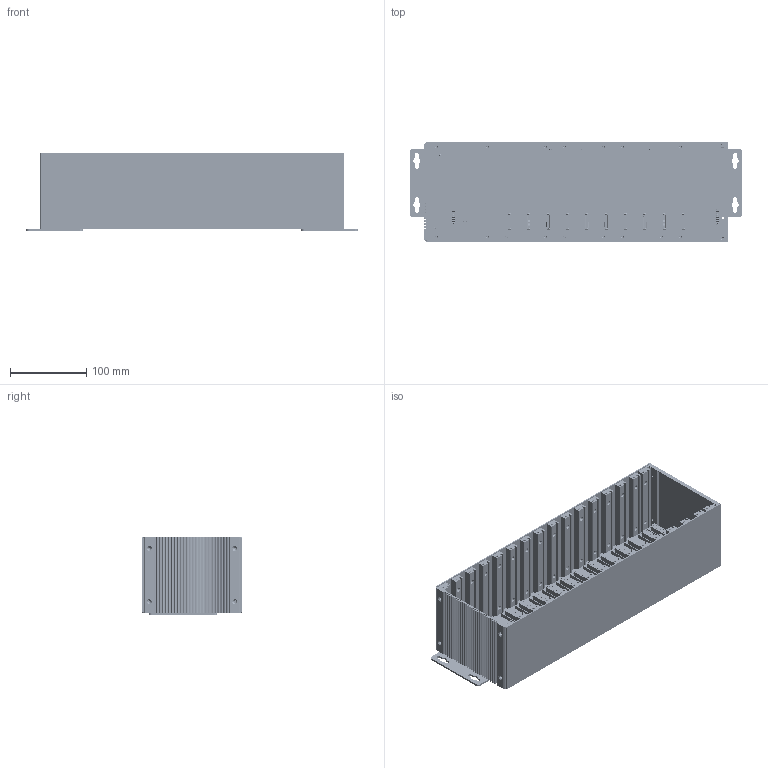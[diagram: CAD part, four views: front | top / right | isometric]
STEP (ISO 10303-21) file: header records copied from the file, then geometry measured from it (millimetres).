
FILE_DESCRIPTION((''),'2;1');
FILE_NAME('IOPAC_8600-12S_ASM','2018-03-05T',('BensonYC_Lee'),('PTC'),'PRO/ENGINEER BY PARAMETRIC TECHNOLOGY CORPORATION, 2017170','PRO/ENGINEER BY PARAMETRIC TECHNOLOGY CORPORATION, 2017170','');
FILE_SCHEMA(('AUTOMOTIVE_DESIGN { 1 0 10303 214 1 1 1 1 }'));
Products named in the file (16): PCB-BACKPLANE-8600-12S; ERNI_103670; 1126002048000_48P-F-DIN41612-A1; 244837; TSB0-01271-00XXA; PCBA-BACKPLANE-8600-12S_ASM; BACK-PLATE-12S-8600; HEAT-PLATE-L_E81XX; RIGHT-CVR-8600; 1490000210028_WK_EDS-600; BKT_FRAME_IOPAC_8600_12S; FRAME_SLIDE_IOPAC_8600_12S_1; FRAME_SLIDE_IOPAC_8600_12S_2; FRAME_SLIDE_IOPAC_8600_12S_3; FRAME_IOPAC_8600_12S_ASM; IOPAC_8600-12S_ASM
Assembly tree (54 placements, depth 3):
  IOPAC_8600-12S_ASM
    PCBA-BACKPLANE-8600-12S_ASM
      PCB-BACKPLANE-8600-12S
      ERNI_103670  x2
      1126002048000_48P-F-DIN41612-A1  x14
      244837  x10
      TSB0-01271-00XXA  x2
    BACK-PLATE-12S-8600
    HEAT-PLATE-L_E81XX
    RIGHT-CVR-8600
    1490000210028_WK_EDS-600  x2
    FRAME_IOPAC_8600_12S_ASM  x2
      BKT_FRAME_IOPAC_8600_12S
      FRAME_SLIDE_IOPAC_8600_12S_1
      FRAME_SLIDE_IOPAC_8600_12S_2
      FRAME_SLIDE_IOPAC_8600_12S_3
Bounding box: 436.75 x 132.2 x 102.5 mm (x, y, z)
Volume: 802784.4 mm3; surface area: 728114.6 mm2
Topology: 774 solids, 774 shells, 29979 faces, 79551 edges, 52330 vertices
Faces by surface type: plane 20234, cylinder 8423, cone 630, extrusion 460, torus 112, sphere 112, bspline 8
Entity records: 173137 total; most frequent: CARTESIAN_POINT 27820, ORIENTED_EDGE 24374, DIRECTION 24331, EDGE_CURVE 12187, VECTOR 9065, LINE 9019, VERTEX_POINT 7897, AXIS2_PLACEMENT_3D 7633
